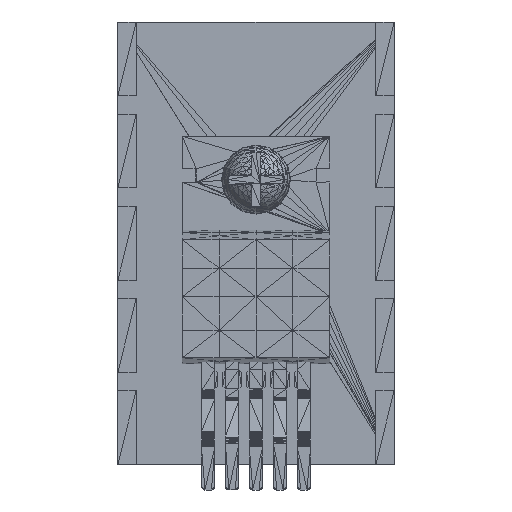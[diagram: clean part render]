
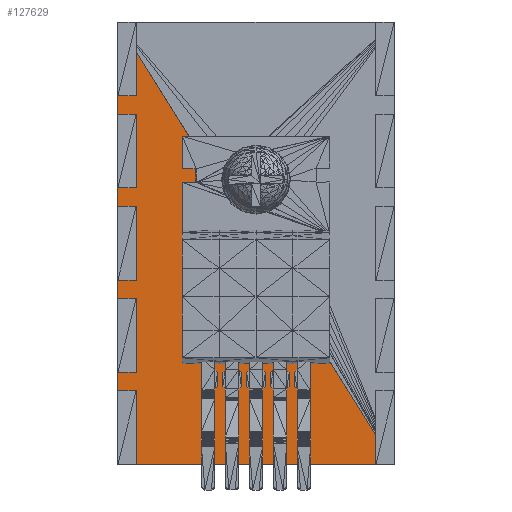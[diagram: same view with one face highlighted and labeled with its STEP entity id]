
A CAD part, front view. The second image highlights one B-rep face of the part: STEP entity #127629.
In plain terms, the highlighted planar face has unit normal (0, -1, 0).
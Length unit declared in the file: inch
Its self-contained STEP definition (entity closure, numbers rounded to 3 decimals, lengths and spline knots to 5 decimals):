
#127598=CARTESIAN_POINT('',(-0.375,0.30976,1.20002));
#127599=DIRECTION('',(0.,1.,0.));
#127600=DIRECTION('',(1.,0.,0.));
#127601=AXIS2_PLACEMENT_3D('',#127598,#127599,#127600);
#127602=PLANE('',#127601);
#127603=CARTESIAN_POINT('',(-0.375,0.31,0.00002));
#127604=VERTEX_POINT('',#127603);
#127605=CARTESIAN_POINT('',(-0.375,0.30976,1.20002));
#127606=VERTEX_POINT('',#127605);
#127607=CARTESIAN_POINT('',(-0.375,0.31,0.00002));
#127608=DIRECTION('',(0.,0.,1.));
#127609=VECTOR('',#127608,1.2);
#127610=LINE('',#127607,#127609);
#127611=EDGE_CURVE('',#127604,#127606,#127610,.T.);
#127612=ORIENTED_EDGE('',*,*,#127611,.F.);
#127613=CARTESIAN_POINT('',(0.375,0.31,0.00002));
#127614=VERTEX_POINT('',#127613);
#127615=CARTESIAN_POINT('',(-0.375,0.31,0.00002));
#127616=DIRECTION('',(1.,0.,-0.));
#127617=VECTOR('',#127616,0.75);
#127618=LINE('',#127615,#127617);
#127619=EDGE_CURVE('',#127604,#127614,#127618,.T.);
#127620=ORIENTED_EDGE('',*,*,#127619,.T.);
#127621=CARTESIAN_POINT('',(0.375,0.31,0.00002));
#127622=DIRECTION('',(-0.53,0.,0.848));
#127623=VECTOR('',#127622,1.4151);
#127624=LINE('',#127621,#127623);
#127625=EDGE_CURVE('',#127614,#127606,#127624,.T.);
#127626=ORIENTED_EDGE('',*,*,#127625,.T.);
#127627=EDGE_LOOP('',(#127612,#127620,#127626));
#127628=FACE_BOUND('',#127627,.T.);
#127629=ADVANCED_FACE('',(#127628),#127602,.F.);
